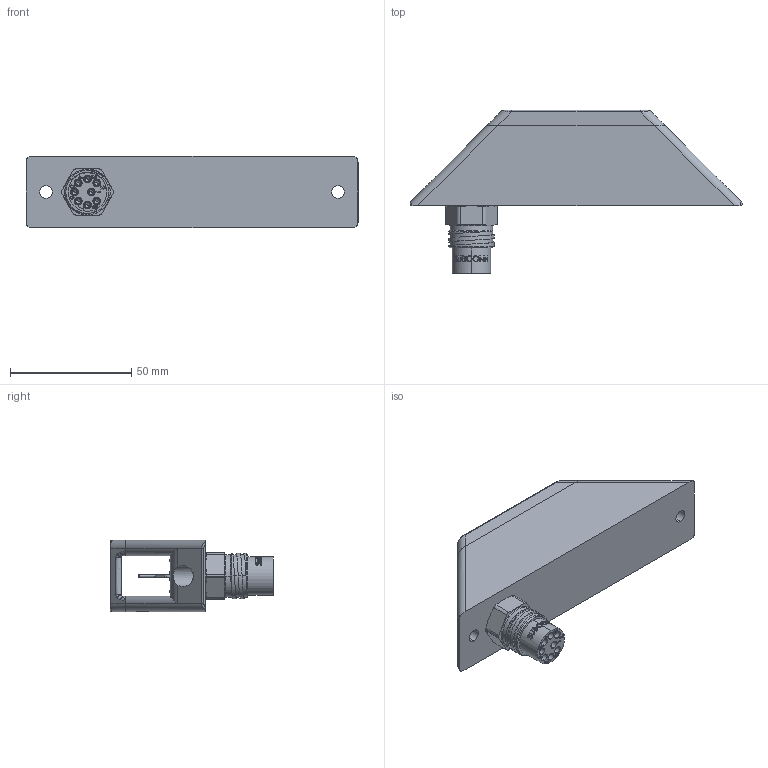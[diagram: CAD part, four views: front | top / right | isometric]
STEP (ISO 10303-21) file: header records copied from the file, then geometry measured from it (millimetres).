
FILE_DESCRIPTION (( 'STEP AP214' ), '1' );
FILE_NAME ('10071 Model 511-2 MCBH8F RevA NO DETAILS.STEP', '2025-08-17T01:29:36', ( '' ), ( '' ), 'SwSTEP 2.0', 'SolidWorks 2023', '' );
FILE_SCHEMA (( 'AUTOMOTIVE_DESIGN' ));
Length unit declared in the file: inch
Products named in the file (1): 10071 Model 511-2 MCBH8F RevA NO DETAILS
Bounding box: 137.16 x 67.46 x 29.44 mm (x, y, z)
Volume: 89685.5 mm3; surface area: 32374.4 mm2
Topology: 13 solids, 21 shells, 1471 faces, 3893 edges, 2506 vertices
Faces by surface type: cylinder 493, plane 446, torus 230, bspline 154, cone 146, sphere 2
Entity records: 90535 total; most frequent: CARTESIAN_POINT 36313, ORIENTED_EDGE 7738, DIRECTION 7012, EDGE_CURVE 3869, AXIS2_PLACEMENT_3D 2761, VERTEX_POINT 2504, EDGE_LOOP 1577, LINE 1490
